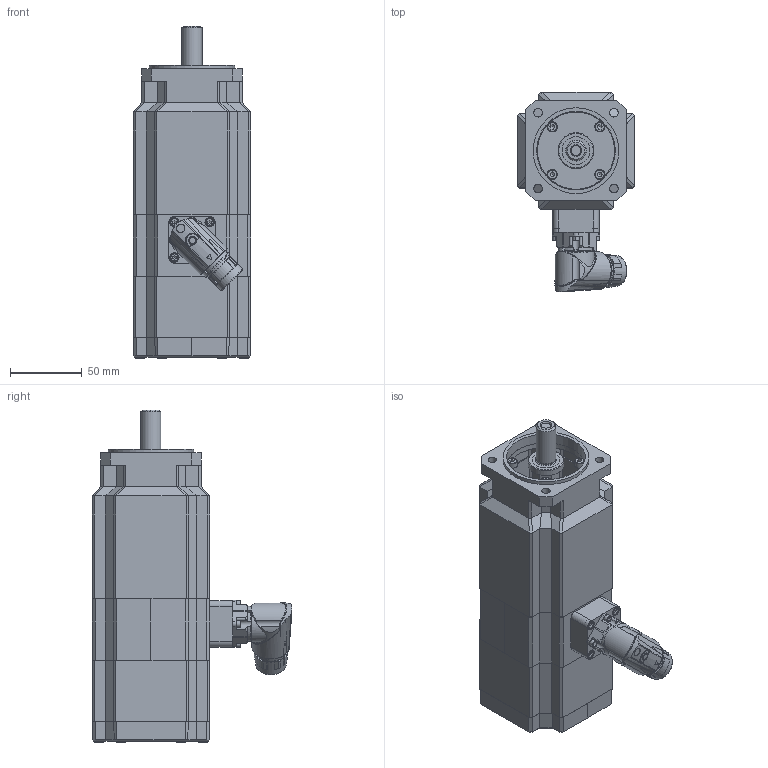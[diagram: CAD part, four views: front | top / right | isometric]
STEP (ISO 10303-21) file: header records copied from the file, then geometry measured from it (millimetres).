
FILE_DESCRIPTION(/* description */ (''),/* implementation_level */ '2;1');
FILE_NAME(/* name */ 'Y:\EMDE\Intelligent Motion\Cinisello\191_SMHA823003714SIZ64S52\Delivery Files\SMxA.82..7.14S.IZ.64.S5.2.stp',/* time_stamp */ '2019-01-10T18:11:27+06:00',/* author */ ('ms00459238'),/* organization */ (''),/* preprocessor_version */ 'ST-DEVELOPER v16.1',/* originating_system */ 'Autodesk Inventor 2016',/* authorisation */ '');
FILE_SCHEMA (('AUTOMOTIVE_DESIGN { 1 0 10303 214 3 1 1 }'));
Length unit declared in the file: millimetre
Products named in the file (1): SMxA.82..7.14S.IZ.64.S5.2
Bounding box: 82.45 x 139.75 x 232.1 mm (x, y, z)
Volume: 1186971.6 mm3; surface area: 89714.1 mm2
Topology: 1 solids, 1 shells, 885 faces, 2252 edges, 1436 vertices
Faces by surface type: plane 531, cylinder 182, bspline 106, cone 39, torus 27
Full cylindrical faces by diameter (mm): 1 x4, 1.18 x4, 1.75 x1, 1.945 x1, 2 x4, 2.8 x4, 3 x4, 4.5 x5, 5.5 x4, 5.8 x1, 5.9 x1, 6 x4, 6.5 x4, 6.8 x1, 7 x8, 7.5 x4, 14 x1, 19.9 x1, 21.145 x1, 21.6 x1, 21.8 x1, 21.9 x1, 24.4 x1, 25 x1, 54 x1, 55 x1, 60 x1
Entity records: 29333 total; most frequent: CARTESIAN_POINT 8443, ORIENTED_EDGE 4204, DIRECTION 3795, EDGE_CURVE 2102, VERTEX_POINT 1395, LINE 1281, VECTOR 1281, AXIS2_PLACEMENT_3D 1257
